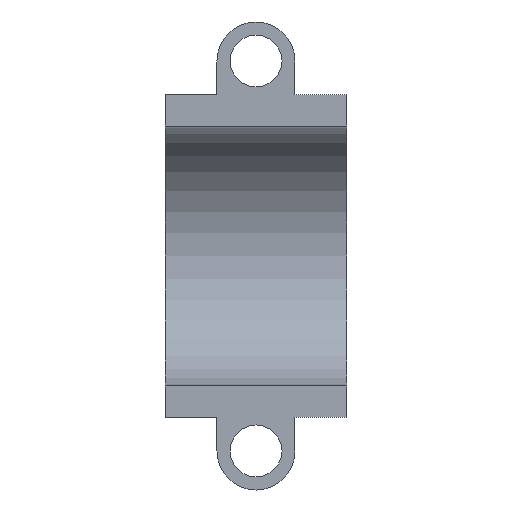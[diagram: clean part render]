
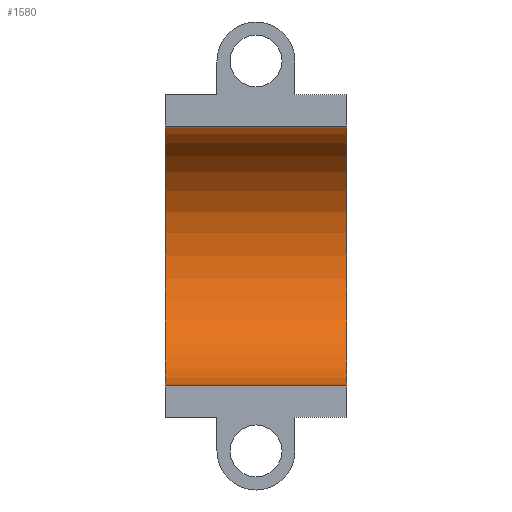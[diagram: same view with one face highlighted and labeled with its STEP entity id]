
A CAD part, left-side view. The second image highlights one B-rep face of the part: STEP entity #1580.
In plain terms, the highlighted cylindrical face has radius 25 mm (diameter 50 mm), a partial arc.
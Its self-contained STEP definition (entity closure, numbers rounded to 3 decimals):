
#70 = CARTESIAN_POINT ( 'NONE',  ( 0., 17.5, 0. ) ) ;
#107 = DIRECTION ( 'NONE',  ( 0., -1., 0. ) ) ;
#119 = DIRECTION ( 'NONE',  ( 0., 0., 1. ) ) ;
#143 = FACE_OUTER_BOUND ( 'NONE', #1035, .T. ) ;
#148 = EDGE_CURVE ( 'NONE', #1472, #1226, #503, .T. ) ;
#175 = VECTOR ( 'NONE', #107, 1000. ) ;
#271 = AXIS2_PLACEMENT_3D ( 'NONE', #1592, #853, #119 ) ;
#319 = DIRECTION ( 'NONE',  ( 0., 0., -1. ) ) ;
#355 = CARTESIAN_POINT ( 'NONE',  ( 0., 17.5, -25. ) ) ;
#385 = CARTESIAN_POINT ( 'NONE',  ( 0., 17.5, 25. ) ) ;
#422 = CYLINDRICAL_SURFACE ( 'NONE', #836, 25. ) ;
#469 = CARTESIAN_POINT ( 'NONE',  ( 0., 17.5, 0. ) ) ;
#503 = LINE ( 'NONE', #355, #175 ) ;
#594 = DIRECTION ( 'NONE',  ( 0., 0., 1. ) ) ;
#617 = ORIENTED_EDGE ( 'NONE', *, *, #1330, .F. ) ;
#627 = AXIS2_PLACEMENT_3D ( 'NONE', #469, #1331, #594 ) ;
#672 = CARTESIAN_POINT ( 'NONE',  ( 0., 17.5, -25. ) ) ;
#742 = VECTOR ( 'NONE', #1244, 1000. ) ;
#824 = CARTESIAN_POINT ( 'NONE',  ( 0., -17.5, 25. ) ) ;
#832 = EDGE_CURVE ( 'NONE', #1226, #1282, #1162, .T. ) ;
#836 = AXIS2_PLACEMENT_3D ( 'NONE', #70, #1050, #319 ) ;
#853 = DIRECTION ( 'NONE',  ( 0., -1., 0. ) ) ;
#1023 = LINE ( 'NONE', #385, #742 ) ;
#1035 = EDGE_LOOP ( 'NONE', ( #1277, #1227, #617, #1043 ) ) ;
#1043 = ORIENTED_EDGE ( 'NONE', *, *, #148, .T. ) ;
#1050 = DIRECTION ( 'NONE',  ( 0., -1., 0. ) ) ;
#1093 = CARTESIAN_POINT ( 'NONE',  ( 0., 17.5, 25. ) ) ;
#1138 = CIRCLE ( 'NONE', #627, 25. ) ;
#1162 = CIRCLE ( 'NONE', #271, 25. ) ;
#1226 = VERTEX_POINT ( 'NONE', #1424 ) ;
#1227 = ORIENTED_EDGE ( 'NONE', *, *, #1426, .F. ) ;
#1244 = DIRECTION ( 'NONE',  ( 0., -1., 0. ) ) ;
#1277 = ORIENTED_EDGE ( 'NONE', *, *, #832, .T. ) ;
#1282 = VERTEX_POINT ( 'NONE', #824 ) ;
#1330 = EDGE_CURVE ( 'NONE', #1472, #1382, #1138, .T. ) ;
#1331 = DIRECTION ( 'NONE',  ( 0., -1., 0. ) ) ;
#1382 = VERTEX_POINT ( 'NONE', #1093 ) ;
#1424 = CARTESIAN_POINT ( 'NONE',  ( 0., -17.5, -25. ) ) ;
#1426 = EDGE_CURVE ( 'NONE', #1382, #1282, #1023, .T. ) ;
#1472 = VERTEX_POINT ( 'NONE', #672 ) ;
#1580 = ADVANCED_FACE ( 'NONE', ( #143 ), #422, .F. ) ;
#1592 = CARTESIAN_POINT ( 'NONE',  ( 0., -17.5, 0. ) ) ;
